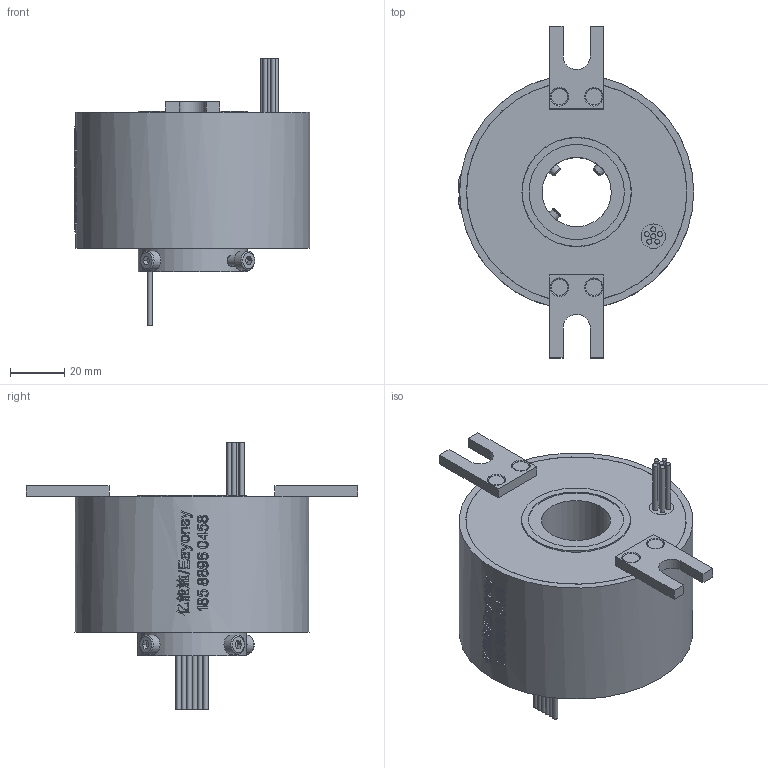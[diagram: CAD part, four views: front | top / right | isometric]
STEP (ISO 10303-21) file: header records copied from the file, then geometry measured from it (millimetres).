
FILE_DESCRIPTION(/* description */ (''),/* implementation_level */ '2;1');
FILE_NAME(/* name */ 'YD2586-0610-3D模型.stp',/* time_stamp */ '2025-08-27T19:17:25+08:00',/* author */ (''),/* organization */ (''),/* preprocessor_version */ 'ST-DEVELOPER v16.7',/* originating_system */ 'SIEMENS PLM Software NX 12.0',/* authorisation */ '');
FILE_SCHEMA (('AUTOMOTIVE_DESIGN { 1 0 10303 214 3 1 1 1 }'));
Length unit declared in the file: millimetre
Products named in the file (1): Admi73ECFBAEnfog
Bounding box: 86.5 x 122 x 98.3 mm (x, y, z)
Volume: 276523.8 mm3; surface area: 37025.9 mm2
Topology: 1 solids, 5 shells, 896 faces, 2385 edges, 1583 vertices
Faces by surface type: extrusion 452, plane 326, cylinder 69, bspline 33, cone 12, torus 4
Full cylindrical faces by diameter (mm): 1.8 x12, 3 x4, 3.4 x1, 3.5 x4, 4 x7, 6 x4, 7 x4, 9 x1, 25.4 x1, 35 x1, 40 x2, 40.2 x1, 80.9 x2, 81 x2, 86 x1
Entity records: 35570 total; most frequent: CARTESIAN_POINT 16842, ORIENTED_EDGE 4616, EDGE_CURVE 2308, B_SPLINE_CURVE_WITH_KNOTS 2203, DIRECTION 2104, VERTEX_POINT 1569, EDGE_LOOP 1057, ADVANCED_FACE 896
